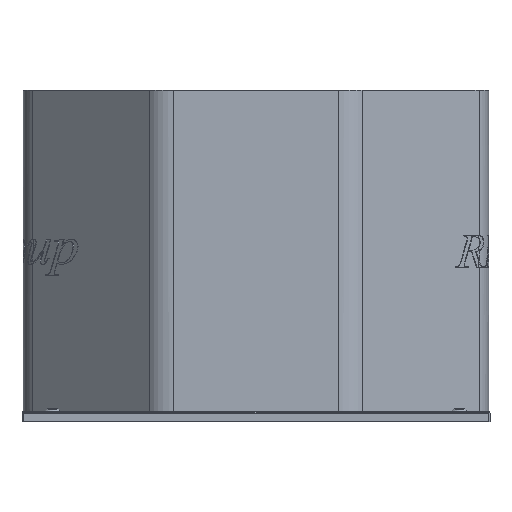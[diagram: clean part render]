
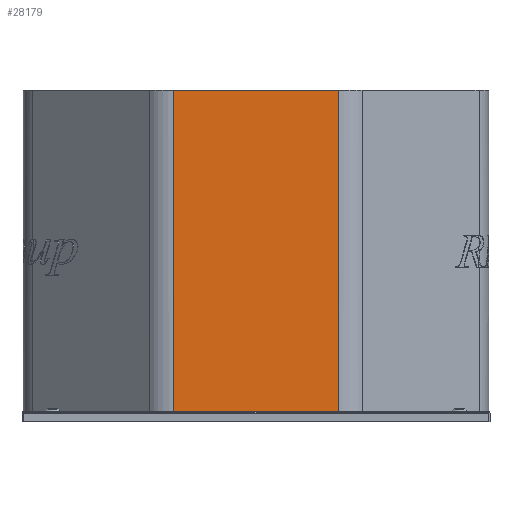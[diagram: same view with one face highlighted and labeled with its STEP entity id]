
A CAD part, front view. The second image highlights one B-rep face of the part: STEP entity #28179.
In plain terms, the highlighted planar face has unit normal (0, -1, 0).
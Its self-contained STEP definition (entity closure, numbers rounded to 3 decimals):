
#1201=PLANE('',#30180);
#2577=FACE_OUTER_BOUND('',#4134,.T.);
#4134=EDGE_LOOP('',(#24190,#24191,#24192,#24193));
#5452=LINE('',#45668,#7923);
#6731=LINE('',#49651,#9202);
#6732=LINE('',#49656,#9203);
#6733=LINE('',#49657,#9204);
#7923=VECTOR('',#32160,10.);
#9202=VECTOR('',#36235,10.);
#9203=VECTOR('',#36242,10.);
#9204=VECTOR('',#36243,10.);
#12153=VERTEX_POINT('',#45665);
#12154=VERTEX_POINT('',#45667);
#13460=VERTEX_POINT('',#49650);
#13461=VERTEX_POINT('',#49655);
#15391=EDGE_CURVE('',#12153,#12154,#5452,.T.);
#17343=EDGE_CURVE('',#13460,#12154,#6731,.T.);
#17346=EDGE_CURVE('',#13461,#12153,#6732,.T.);
#17347=EDGE_CURVE('',#13460,#13461,#6733,.T.);
#24190=ORIENTED_EDGE('',*,*,#15391,.F.);
#24191=ORIENTED_EDGE('',*,*,#17346,.F.);
#24192=ORIENTED_EDGE('',*,*,#17347,.F.);
#24193=ORIENTED_EDGE('',*,*,#17343,.T.);
#28179=ADVANCED_FACE('',(#2577),#1201,.T.);
#30180=AXIS2_PLACEMENT_3D('',#49654,#36240,#36241);
#32160=DIRECTION('',(-1.,0.,0.));
#36235=DIRECTION('',(0.,0.,-1.));
#36240=DIRECTION('center_axis',(0.,-1.,
0.));
#36241=DIRECTION('ref_axis',(-1.,0.,0.));
#36242=DIRECTION('',(0.,0.,-1.));
#36243=DIRECTION('',(1.,0.,0.));
#45665=CARTESIAN_POINT('',(135.022,-633.131,-57.995));
#45667=CARTESIAN_POINT('',(-270.809,-633.132,-57.995));
#45668=CARTESIAN_POINT('',(33.564,-633.131,-57.995));
#49650=CARTESIAN_POINT('',(-270.809,-633.132,732.005));
#49651=CARTESIAN_POINT('',(-270.809,-633.132,732.005));
#49654=CARTESIAN_POINT('Origin',(135.022,-633.131,732.005));
#49655=CARTESIAN_POINT('',(135.022,-633.131,732.005));
#49656=CARTESIAN_POINT('',(135.022,-633.131,732.005));
#49657=CARTESIAN_POINT('',(-270.809,-633.132,732.005));
